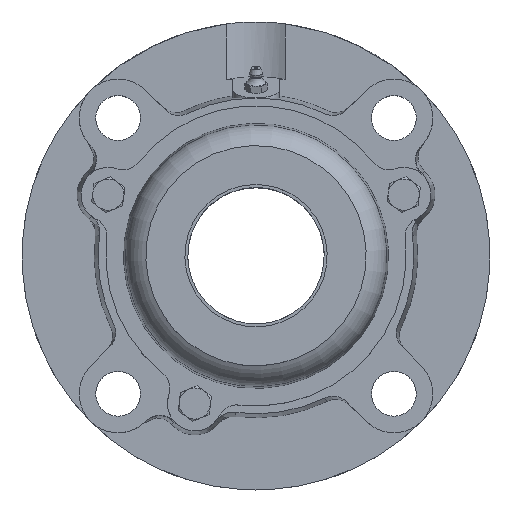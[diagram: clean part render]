
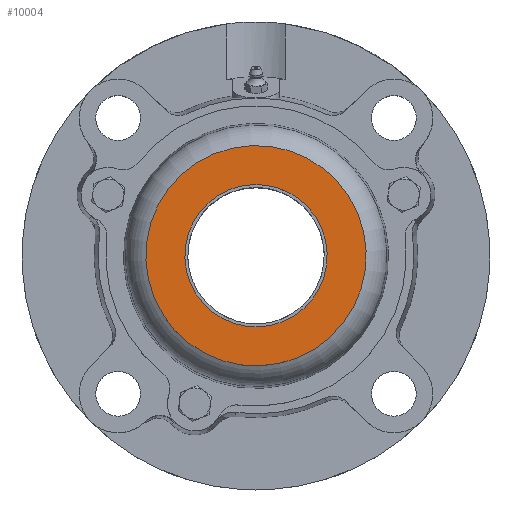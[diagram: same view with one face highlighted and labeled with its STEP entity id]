
A CAD part, top view. The second image highlights one B-rep face of the part: STEP entity #10004.
In plain terms, the highlighted planar face has unit normal (0, 0, 1).
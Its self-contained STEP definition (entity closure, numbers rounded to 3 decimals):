
#9269=CARTESIAN_POINT('',(36.5,0.,50.5));
#9270=VERTEX_POINT('',#9269);
#9271=CARTESIAN_POINT('',(0.0,0.0,50.5));
#9272=DIRECTION('',(0.0,0.0,-1.0));
#9273=DIRECTION('',(-1.0,0.0,0.0));
#9274=AXIS2_PLACEMENT_3D('',#9271,#9272,#9273);
#9275=CIRCLE('',#9274,36.5);
#9276=EDGE_CURVE('',#9270,#9270,#9275,.T.);
#9909=CARTESIAN_POINT('',(0.0,56.5,50.5));
#9910=VERTEX_POINT('',#9909);
#9911=CARTESIAN_POINT('',(0.0,0.,50.5));
#9912=DIRECTION('',(0.0,0.0,1.0));
#9913=DIRECTION('',(0.0,1.0,0.0));
#9914=AXIS2_PLACEMENT_3D('',#9911,#9912,#9913);
#9915=CIRCLE('',#9914,56.5);
#9916=EDGE_CURVE('',#9910,#9910,#9915,.T.);
#9993=CARTESIAN_POINT('',(0.,83.816,50.5));
#9994=DIRECTION('',(0.0,0.0,1.0));
#9995=DIRECTION('',(1.0,0.0,0.0));
#9996=AXIS2_PLACEMENT_3D('',#9993,#9994,#9995);
#9997=PLANE('',#9996);
#9998=ORIENTED_EDGE('',*,*,#9916,.T.);
#9999=EDGE_LOOP('',(#9998));
#10000=FACE_OUTER_BOUND('',#9999,.T.);
#10001=ORIENTED_EDGE('',*,*,#9276,.T.);
#10002=EDGE_LOOP('',(#10001));
#10003=FACE_BOUND('',#10002,.T.);
#10004=ADVANCED_FACE('',(#10000,#10003),#9997,.T.);
